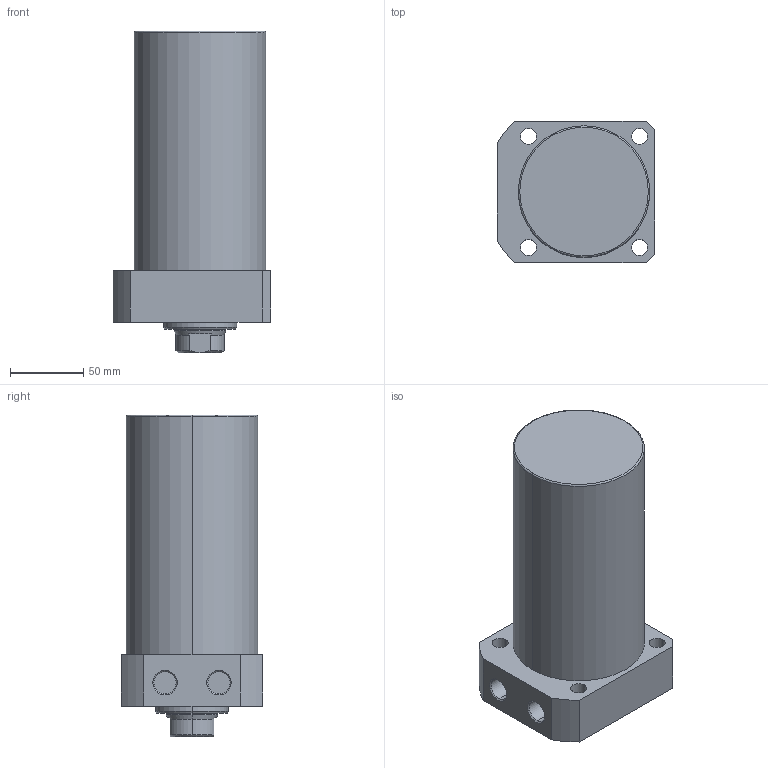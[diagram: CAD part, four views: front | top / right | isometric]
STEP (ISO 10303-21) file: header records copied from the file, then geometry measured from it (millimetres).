
FILE_DESCRIPTION (( 'STEP AP203' ), '1' );
FILE_NAME ('CLLR-090CA-120.STEP', '2019-12-18T06:27:11', ( '' ), ( '' ), 'SwSTEP 2.0', 'SolidWorks 2015', '' );
FILE_SCHEMA (( 'CONFIG_CONTROL_DESIGN' ));
Length unit declared in the file: millimetre
Products named in the file (1): CLLR-090CA-120
Bounding box: 108 x 97 x 220 mm (x, y, z)
Volume: 1392228.3 mm3; surface area: 91457.3 mm2
Topology: 1 solids, 1 shells, 65 faces, 151 edges, 94 vertices
Faces by surface type: cylinder 29, plane 19, cone 15, torus 2
Entity records: 1977 total; most frequent: CARTESIAN_POINT 357, DIRECTION 350, ORIENTED_EDGE 298, EDGE_CURVE 149, AXIS2_PLACEMENT_3D 143, VERTEX_POINT 94, EDGE_LOOP 81, CIRCLE 77
